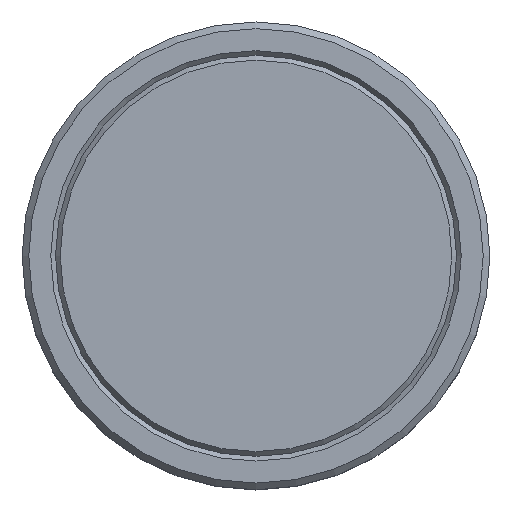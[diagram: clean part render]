
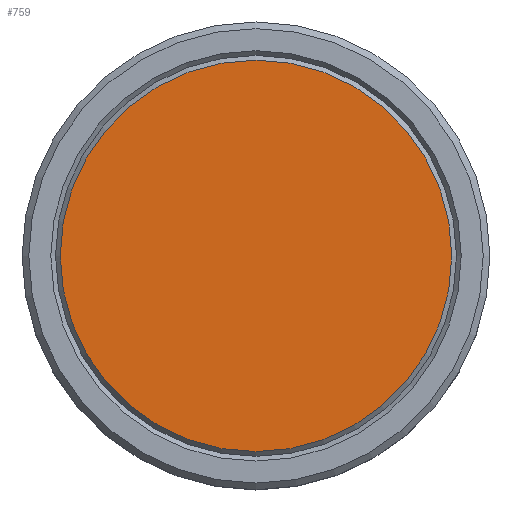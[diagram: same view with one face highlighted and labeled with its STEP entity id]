
A CAD part, top view. The second image highlights one B-rep face of the part: STEP entity #759.
In plain terms, the highlighted planar face has unit normal (0, 0, 1).
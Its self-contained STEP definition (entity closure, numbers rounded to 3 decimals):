
#687 = CONICAL_SURFACE('',#688,5.84,0.755);
#688 = AXIS2_PLACEMENT_3D('',#689,#690,#691);
#689 = CARTESIAN_POINT('',(0.,0.,19.52));
#690 = DIRECTION('',(-0.,-0.,-1.));
#691 = DIRECTION('',(1.,0.,0.));
#704 = EDGE_CURVE('',#705,#705,#707,.T.);
#705 = VERTEX_POINT('',#706);
#706 = CARTESIAN_POINT('',(5.859,0.,19.5));
#707 = SURFACE_CURVE('',#708,(#713,#720),.PCURVE_S1.);
#708 = CIRCLE('',#709,5.859);
#709 = AXIS2_PLACEMENT_3D('',#710,#711,#712);
#710 = CARTESIAN_POINT('',(0.,0.,19.5));
#711 = DIRECTION('',(0.,0.,-1.));
#712 = DIRECTION('',(1.,0.,0.));
#713 = PCURVE('',#687,#714);
#714 = DEFINITIONAL_REPRESENTATION('',(#715),#719);
#715 = LINE('',#716,#717);
#716 = CARTESIAN_POINT('',(-6.283,0.02));
#717 = VECTOR('',#718,1.);
#718 = DIRECTION('',(1.,-0.));
#719 = ( GEOMETRIC_REPRESENTATION_CONTEXT(2) 
PARAMETRIC_REPRESENTATION_CONTEXT() REPRESENTATION_CONTEXT('2D SPACE',''
  ) );
#720 = PCURVE('',#721,#726);
#721 = PLANE('',#722);
#722 = AXIS2_PLACEMENT_3D('',#723,#724,#725);
#723 = CARTESIAN_POINT('',(0.,0.,19.5));
#724 = DIRECTION('',(0.,0.,1.));
#725 = DIRECTION('',(1.,0.,-0.));
#726 = DEFINITIONAL_REPRESENTATION('',(#727),#735);
#727 = ( BOUNDED_CURVE() B_SPLINE_CURVE(2,(#728,#729,#730,#731,#732,#733
,#734),.UNSPECIFIED.,.T.,.F.) B_SPLINE_CURVE_WITH_KNOTS((1,2,2,2,2,1),(
    -2.094,0.,2.094,4.189,6.283,
8.378),.UNSPECIFIED.) CURVE() GEOMETRIC_REPRESENTATION_ITEM() 
RATIONAL_B_SPLINE_CURVE((1.,0.5,1.,0.5,1.,0.5,1.)) REPRESENTATION_ITEM(
  '') );
#728 = CARTESIAN_POINT('',(5.859,0.));
#729 = CARTESIAN_POINT('',(5.859,-10.148));
#730 = CARTESIAN_POINT('',(-2.929,-5.074));
#731 = CARTESIAN_POINT('',(-11.718,0.));
#732 = CARTESIAN_POINT('',(-2.929,5.074));
#733 = CARTESIAN_POINT('',(5.859,10.148));
#734 = CARTESIAN_POINT('',(5.859,0.));
#735 = ( GEOMETRIC_REPRESENTATION_CONTEXT(2) 
PARAMETRIC_REPRESENTATION_CONTEXT() REPRESENTATION_CONTEXT('2D SPACE',''
  ) );
#759 = ADVANCED_FACE('',(#760),#721,.T.);
#760 = FACE_BOUND('',#761,.T.);
#761 = EDGE_LOOP('',(#762));
#762 = ORIENTED_EDGE('',*,*,#704,.F.);
